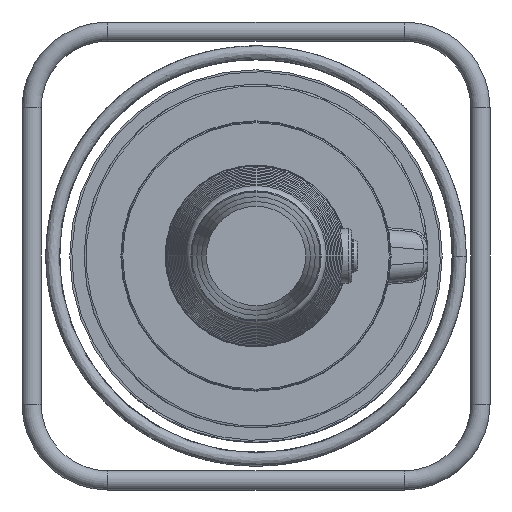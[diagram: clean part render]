
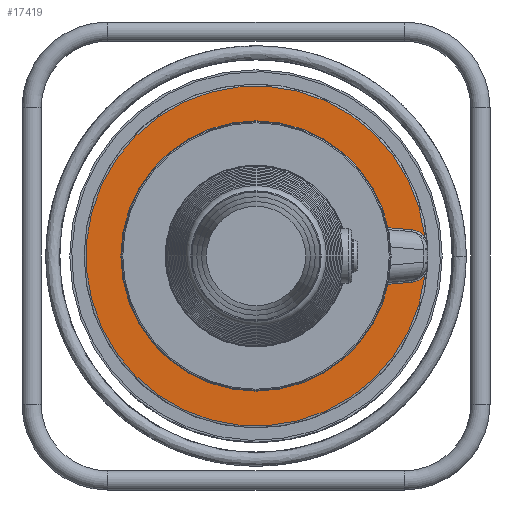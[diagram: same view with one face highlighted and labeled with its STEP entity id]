
A CAD part, left-side view. The second image highlights one B-rep face of the part: STEP entity #17419.
In plain terms, the highlighted planar face has unit normal (-1, 0, 0).
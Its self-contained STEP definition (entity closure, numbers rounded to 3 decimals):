
#895=PLANE('',#18639);
#2535=LINE('',#42937,#3489);
#2537=LINE('',#42961,#3491);
#3489=VECTOR('',#21901,10.);
#3491=VECTOR('',#21931,10.);
#4469=FACE_OUTER_BOUND('',#5547,.T.);
#5547=EDGE_LOOP('',(#15109,#15110,#15111,#15112,#15113,#15114,#15115,#15116));
#6174=CIRCLE('',#18566,21.);
#6178=CIRCLE('',#18572,8.);
#6181=CIRCLE('',#18576,113.);
#6184=CIRCLE('',#18580,8.);
#6188=CIRCLE('',#18586,21.);
#6194=CIRCLE('',#18604,178.);
#7949=VERTEX_POINT('',#42904);
#7952=VERTEX_POINT('',#42929);
#7954=VERTEX_POINT('',#42935);
#7956=VERTEX_POINT('',#42941);
#7958=VERTEX_POINT('',#42947);
#7960=VERTEX_POINT('',#42953);
#7962=VERTEX_POINT('',#42959);
#7964=VERTEX_POINT('',#42965);
#10298=EDGE_CURVE('',#7952,#7949,#6174,.T.);
#10301=EDGE_CURVE('',#7954,#7952,#2535,.T.);
#10304=EDGE_CURVE('',#7956,#7954,#6178,.T.);
#10307=EDGE_CURVE('',#7958,#7956,#6181,.T.);
#10310=EDGE_CURVE('',#7960,#7958,#6184,.T.);
#10313=EDGE_CURVE('',#7962,#7960,#2537,.T.);
#10316=EDGE_CURVE('',#7964,#7962,#6188,.T.);
#10340=EDGE_CURVE('',#7949,#7964,#6194,.T.);
#15109=ORIENTED_EDGE('',*,*,#10316,.F.);
#15110=ORIENTED_EDGE('',*,*,#10340,.F.);
#15111=ORIENTED_EDGE('',*,*,#10298,.F.);
#15112=ORIENTED_EDGE('',*,*,#10301,.F.);
#15113=ORIENTED_EDGE('',*,*,#10304,.F.);
#15114=ORIENTED_EDGE('',*,*,#10307,.F.);
#15115=ORIENTED_EDGE('',*,*,#10310,.F.);
#15116=ORIENTED_EDGE('',*,*,#10313,.F.);
#17419=ADVANCED_FACE('',(#4469),#895,.T.);
#18566=AXIS2_PLACEMENT_3D('',#42931,#21893,#21894);
#18572=AXIS2_PLACEMENT_3D('',#42943,#21907,#21908);
#18576=AXIS2_PLACEMENT_3D('',#42949,#21915,#21916);
#18580=AXIS2_PLACEMENT_3D('',#42955,#21923,#21924);
#18586=AXIS2_PLACEMENT_3D('',#42967,#21937,#21938);
#18604=AXIS2_PLACEMENT_3D('',#43102,#21983,#21984);
#18639=AXIS2_PLACEMENT_3D('',#43728,#22057,#22058);
#21893=DIRECTION('center_axis',(-1.,0.,0.));
#21894=DIRECTION('ref_axis',(0.,-0.535,-0.845));
#21901=DIRECTION('',(0.,-0.996,0.087));
#21907=DIRECTION('center_axis',(1.,0.,0.));
#21908=DIRECTION('ref_axis',(0.,0.614,0.789));
#21915=DIRECTION('center_axis',(-1.,0.,0.));
#21916=DIRECTION('ref_axis',(0.,1.,0.));
#21923=DIRECTION('center_axis',(1.,0.,0.));
#21924=DIRECTION('ref_axis',(0.,0.614,-0.789));
#21931=DIRECTION('',(0.,0.996,0.087));
#21937=DIRECTION('center_axis',(-1.,0.,0.));
#21938=DIRECTION('ref_axis',(0.,-0.535,0.845));
#21983=DIRECTION('center_axis',(1.,0.,0.));
#21984=DIRECTION('ref_axis',(0.,1.,0.));
#22057=DIRECTION('center_axis',(-1.,0.,0.));
#22058=DIRECTION('ref_axis',(0.,0.,
-1.));
#42904=CARTESIAN_POINT('',(-150.,-176.847,-20.223));
#42929=CARTESIAN_POINT('',(-150.,-162.695,-27.522));
#42931=CARTESIAN_POINT('Origin',(-150.,-160.865,-6.602));
#42935=CARTESIAN_POINT('',(-150.,-113.574,-31.819));
#42937=CARTESIAN_POINT('',(-150.,20.898,-43.584));
#42941=CARTESIAN_POINT('',(-150.,-106.716,-37.158));
#42943=CARTESIAN_POINT('Origin',(-150.,-114.271,-39.789));
#42947=CARTESIAN_POINT('',(-150.,-106.716,37.158));
#42949=CARTESIAN_POINT('Origin',(-150.,0.,
0.));
#42953=CARTESIAN_POINT('',(-150.,-113.574,31.819));
#42955=CARTESIAN_POINT('Origin',(-150.,-114.271,39.789));
#42959=CARTESIAN_POINT('',(-150.,-162.695,27.522));
#42961=CARTESIAN_POINT('',(-150.,20.898,43.584));
#42965=CARTESIAN_POINT('',(-150.,-176.847,20.223));
#42967=CARTESIAN_POINT('Origin',(-150.,-160.865,6.602));
#43102=CARTESIAN_POINT('Origin',(-150.,0.,
0.));
#43728=CARTESIAN_POINT('Origin',(-150.,179.,0.));
